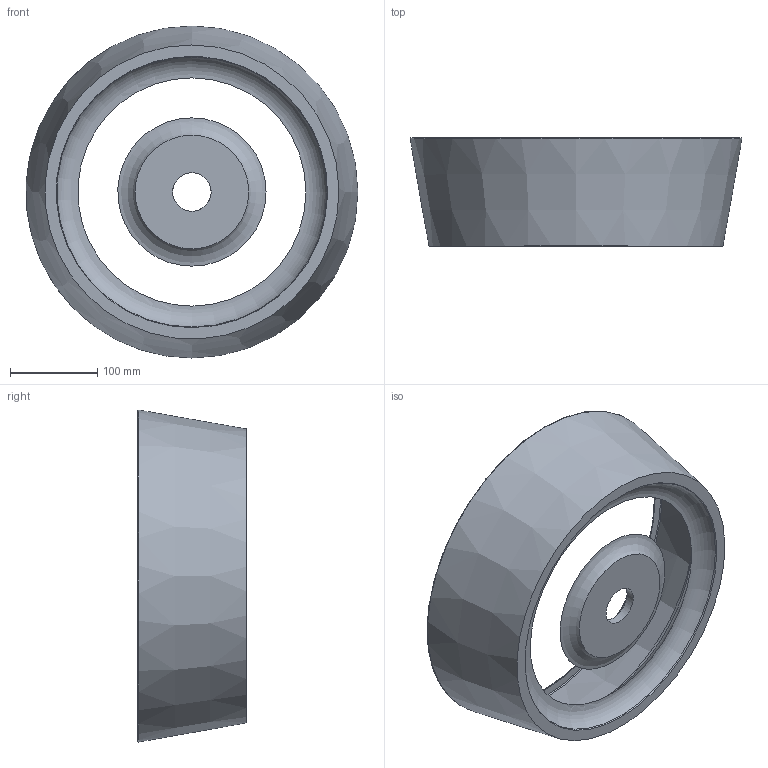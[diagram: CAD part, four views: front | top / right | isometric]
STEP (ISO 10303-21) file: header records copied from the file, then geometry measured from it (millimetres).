
FILE_DESCRIPTION(/* description */ (''),/* implementation_level */ '2;1');
FILE_NAME(/* name */ 'c:\worker\convert-fusion-r09\tmp\job-1\43\output\files\94230fcc-e7ef-4614-8cf8-01e924e0a3d3\caf796be-8ed2-4d10-85bd-37b2268a3aec.stp',/* time_stamp */ '2020-01-07T12:31:44+00:00',/* author */ (''),/* organization */ (''),/* preprocessor_version */ 'ST-DEVELOPER v18',/* originating_system */ 'Autodesk Translation Framework v8.12.0.6',/* authorisation */ '');
FILE_SCHEMA (('AUTOMOTIVE_DESIGN { 1 0 10303 214 3 1 1 }'));
Length unit declared in the file: millimetre
Products named in the file (1): Bari UN
Bounding box: 379.38 x 124 x 379.61 mm (x, y, z)
Volume: 3095504.5 mm3; surface area: 427498.1 mm2
Topology: 1 solids, 1 shells, 16 faces, 54 edges, 41 vertices
Faces by surface type: torus 6, cone 6, plane 3, cylinder 1
Full cylindrical faces by diameter (mm): 44 x1
Entity records: 682 total; most frequent: DIRECTION 135, CARTESIAN_POINT 112, ORIENTED_EDGE 108, AXIS2_PLACEMENT_3D 64, EDGE_CURVE 54, CIRCLE 47, VERTEX_POINT 41, EDGE_LOOP 19
